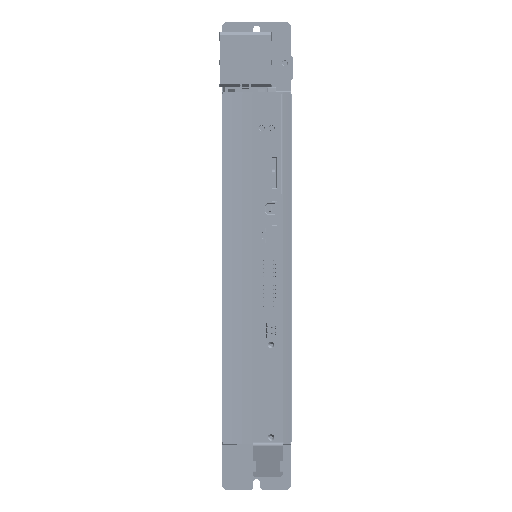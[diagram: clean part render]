
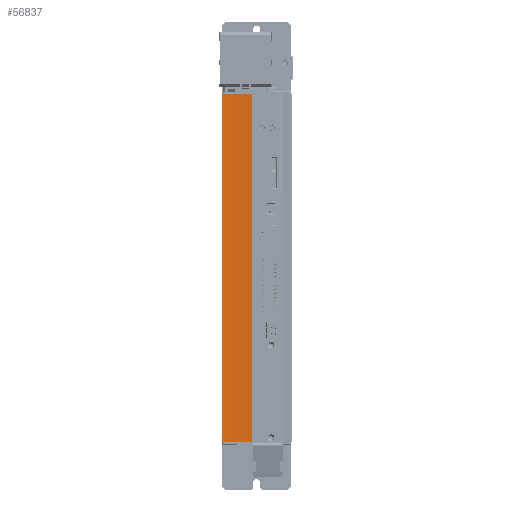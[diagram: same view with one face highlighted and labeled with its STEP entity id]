
A CAD part, left-side view. The second image highlights one B-rep face of the part: STEP entity #56837.
In plain terms, the highlighted cylindrical face has radius 290 mm (diameter 580 mm), a partial arc.
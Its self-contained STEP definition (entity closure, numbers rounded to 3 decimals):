
#56837=ADVANCED_FACE('',(#64401),#59010,.F.);
#59010=CYLINDRICAL_SURFACE('',#166257,290.);
#64401=FACE_OUTER_BOUND('',#71738,.T.);
#71738=EDGE_LOOP('',(#123737,#123738,#123739,#123740));
#82844=LINE('',#238335,#94821);
#82845=LINE('',#238336,#94822);
#94821=VECTOR('',#190782,1.);
#94822=VECTOR('',#190783,1.);
#123737=ORIENTED_EDGE('',*,*,#154122,.T.);
#123738=ORIENTED_EDGE('',*,*,#154138,.T.);
#123739=ORIENTED_EDGE('',*,*,#153888,.F.);
#123740=ORIENTED_EDGE('',*,*,#154139,.F.);
#138643=VERTEX_POINT('',#237907);
#138644=VERTEX_POINT('',#237909);
#138807=VERTEX_POINT('',#238306);
#138808=VERTEX_POINT('',#238308);
#153888=EDGE_CURVE('',#138643,#138644,#159038,.T.);
#154122=EDGE_CURVE('',#138808,#138807,#159181,.T.);
#154138=EDGE_CURVE('',#138807,#138644,#82844,.T.);
#154139=EDGE_CURVE('',#138808,#138643,#82845,.T.);
#159038=CIRCLE('',#166107,290.);
#159181=CIRCLE('',#166251,290.);
#166107=AXIS2_PLACEMENT_3D('',#237908,#190376,#190377);
#166251=AXIS2_PLACEMENT_3D('',#238307,#190755,#190756);
#166257=AXIS2_PLACEMENT_3D('',#238337,#190784,#190785);
#190376=DIRECTION('',(0.,0.,1.));
#190377=DIRECTION('',(1.,0.,0.));
#190755=DIRECTION('',(0.,0.,1.));
#190756=DIRECTION('',(-1.,0.,0.));
#190782=DIRECTION('',(0.,0.,-1.));
#190783=DIRECTION('',(0.,0.,-1.));
#190784=DIRECTION('',(0.,0.,-1.));
#190785=DIRECTION('',(1.,0.,0.));
#237907=CARTESIAN_POINT('',(161.718,-281.448,293.818));
#237908=CARTESIAN_POINT('',(-128.258,-285.198,293.818));
#237909=CARTESIAN_POINT('',(160.318,-256.498,293.818));
#238306=CARTESIAN_POINT('',(160.318,-256.498,585.818));
#238307=CARTESIAN_POINT('',(-128.258,-285.198,585.818));
#238308=CARTESIAN_POINT('',(161.718,-281.448,585.818));
#238335=CARTESIAN_POINT('',(160.318,-256.498,644.489));
#238336=CARTESIAN_POINT('',(161.718,-281.448,611.854));
#238337=CARTESIAN_POINT('',(-128.258,-285.198,644.489));
